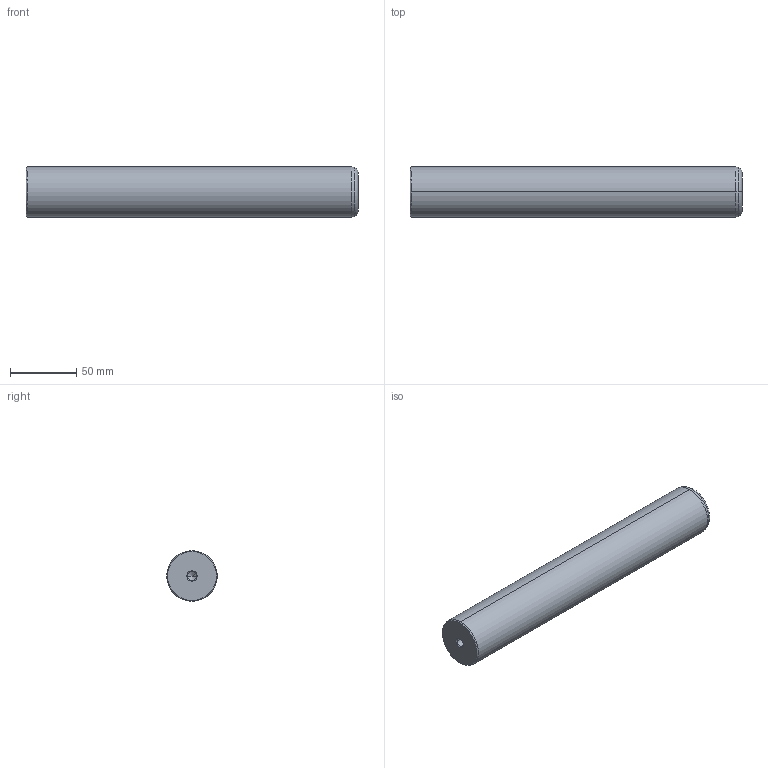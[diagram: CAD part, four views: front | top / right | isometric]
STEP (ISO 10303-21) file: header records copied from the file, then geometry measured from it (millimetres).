
FILE_DESCRIPTION(('CATIA V5 STEP Exchange'),'2;1');
FILE_NAME('C:\Users\Utente\Desktop\IO LAVORO\3D X SITO CF\X SITO\720\720-38x250.stp','2021-01-01T12:04:52+00:00',('none'),('none'),'CATIA Version 5 Release 20 GA (IN-10)','CATIA V5 STEP AP203','none');
FILE_SCHEMA(('CONFIG_CONTROL_DESIGN'));
Length unit declared in the file: millimetre
Products named in the file (1): 720-38x250
Bounding box: 250 x 38 x 38 mm (x, y, z)
Volume: 281189.2 mm3; surface area: 32799.9 mm2
Topology: 1 solids, 1 shells, 22 faces, 56 edges, 34 vertices
Faces by surface type: cone 12, cylinder 6, plane 2, torus 2
Entity records: 755 total; most frequent: CARTESIAN_POINT 216, ORIENTED_EDGE 104, DIRECTION 89, EDGE_CURVE 52, AXIS2_PLACEMENT_3D 50, VERTEX_POINT 34, CIRCLE 27, EDGE_LOOP 24
